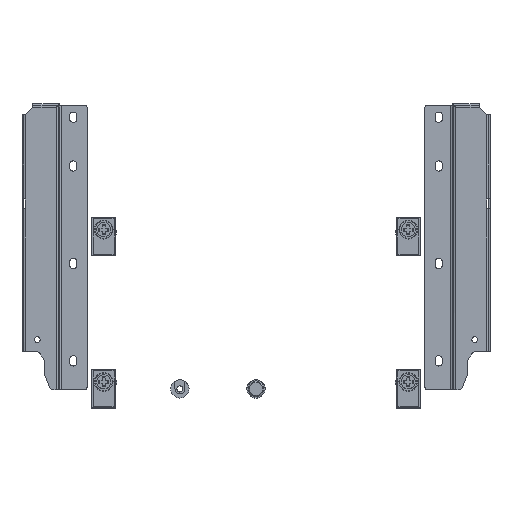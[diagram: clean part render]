
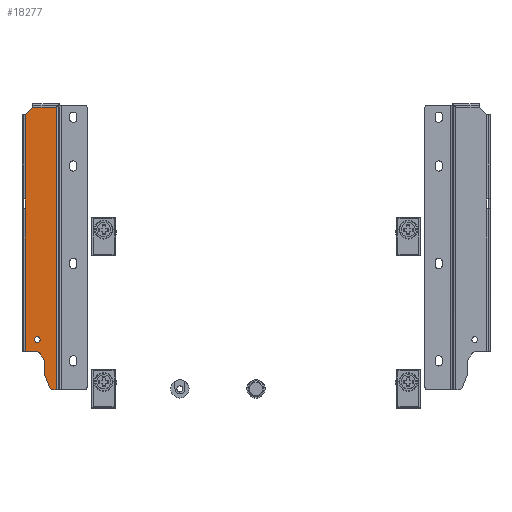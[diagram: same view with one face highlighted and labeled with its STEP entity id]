
A CAD part, top view. The second image highlights one B-rep face of the part: STEP entity #18277.
In plain terms, the highlighted planar face has unit normal (0, 0, 1) as drawn and (0, 1, 0) by its records, which use the part's own axes.
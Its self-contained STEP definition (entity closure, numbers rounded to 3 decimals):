
#11 = ORIENTED_EDGE ( 'NONE', *, *, #377, .F. ) ;
#38 = CARTESIAN_POINT ( 'NONE',  ( 1., 19., 0. ) ) ;
#102 = DIRECTION ( 'NONE',  ( 0., 0., 1. ) ) ;
#377 = EDGE_CURVE ( 'NONE', #13517, #10356, #13928, .T. ) ;
#942 = AXIS2_PLACEMENT_3D ( 'NONE', #19982, #1595, #8002 ) ;
#1510 = CARTESIAN_POINT ( 'NONE',  ( 13.7, 19., 34.9 ) ) ;
#1530 = VERTEX_POINT ( 'NONE', #11367 ) ;
#1595 = DIRECTION ( 'NONE',  ( 0., 1., 0. ) ) ;
#1844 = LINE ( 'NONE', #18889, #18257 ) ;
#1923 = CARTESIAN_POINT ( 'NONE',  ( 11.813, 19., 23.635 ) ) ;
#2021 = ORIENTED_EDGE ( 'NONE', *, *, #20802, .F. ) ;
#2041 = ORIENTED_EDGE ( 'NONE', *, *, #18205, .T. ) ;
#2085 = DIRECTION ( 'NONE',  ( 0., 0., 1. ) ) ;
#2233 = VERTEX_POINT ( 'NONE', #14433 ) ;
#2329 = DIRECTION ( 'NONE',  ( 0., 1., 0. ) ) ;
#2433 = CARTESIAN_POINT ( 'NONE',  ( 5., 19., 0. ) ) ;
#2738 = DIRECTION ( 'NONE',  ( 0., 0., 1. ) ) ;
#2836 = CARTESIAN_POINT ( 'NONE',  ( 14.328, 19., 22. ) ) ;
#2858 = CARTESIAN_POINT ( 'NONE',  ( 8.8, 19., 19. ) ) ;
#3042 = CARTESIAN_POINT ( 'NONE',  ( 0., 19., 187. ) ) ;
#3264 = DIRECTION ( 'NONE',  ( 0., 1., 0. ) ) ;
#3267 = VECTOR ( 'NONE', #15112, 1000. ) ;
#3284 = VECTOR ( 'NONE', #2085, 1000. ) ;
#3337 = VECTOR ( 'NONE', #8276, 1000. ) ;
#3346 = VECTOR ( 'NONE', #5807, 1000. ) ;
#3488 = EDGE_CURVE ( 'NONE', #5441, #14336, #13317, .T. ) ;
#3519 = EDGE_CURVE ( 'NONE', #20053, #9158, #5229, .T. ) ;
#3773 = LINE ( 'NONE', #8936, #10231 ) ;
#3824 = EDGE_CURVE ( 'NONE', #19810, #14336, #8317, .T. ) ;
#3882 = VERTEX_POINT ( 'NONE', #20000 ) ;
#4195 = ORIENTED_EDGE ( 'NONE', *, *, #15289, .T. ) ;
#4219 = CARTESIAN_POINT ( 'NONE',  ( 2.931, 19., 3. ) ) ;
#4409 = ORIENTED_EDGE ( 'NONE', *, *, #20929, .F. ) ;
#4506 = AXIS2_PLACEMENT_3D ( 'NONE', #3042, #4727, #11364 ) ;
#4592 = DIRECTION ( 'NONE',  ( -1., 0., 0. ) ) ;
#4727 = DIRECTION ( 'NONE',  ( 0., 1., 0. ) ) ;
#4968 = DIRECTION ( 'NONE',  ( 0., 0., 1. ) ) ;
#5155 = CIRCLE ( 'NONE', #15559, 1.9 ) ;
#5190 = DIRECTION ( 'NONE',  ( 0., 0., 1. ) ) ;
#5229 = LINE ( 'NONE', #17360, #18693 ) ;
#5398 = EDGE_CURVE ( 'NONE', #1530, #5657, #21311, .T. ) ;
#5404 = ORIENTED_EDGE ( 'NONE', *, *, #19356, .F. ) ;
#5441 = VERTEX_POINT ( 'NONE', #20283 ) ;
#5593 = ORIENTED_EDGE ( 'NONE', *, *, #3824, .T. ) ;
#5608 = ORIENTED_EDGE ( 'NONE', *, *, #15984, .F. ) ;
#5657 = VERTEX_POINT ( 'NONE', #5703 ) ;
#5703 = CARTESIAN_POINT ( 'NONE',  ( 1., 19., 185.7 ) ) ;
#5807 = DIRECTION ( 'NONE',  ( 0.355, 0., 0.935 ) ) ;
#5966 = EDGE_CURVE ( 'NONE', #10975, #2233, #10480, .T. ) ;
#6227 = CARTESIAN_POINT ( 'NONE',  ( 11.8, 19., 18.111 ) ) ;
#6364 = DIRECTION ( 'NONE',  ( 0., 1., 0. ) ) ;
#6806 = CARTESIAN_POINT ( 'NONE',  ( 14.328, 19., 25. ) ) ;
#6947 = LINE ( 'NONE', #2433, #3346 ) ;
#7045 = DIRECTION ( 'NONE',  ( 1., 0., 0. ) ) ;
#7357 = ORIENTED_EDGE ( 'NONE', *, *, #3488, .F. ) ;
#7938 = LINE ( 'NONE', #2858, #18865 ) ;
#8002 = DIRECTION ( 'NONE',  ( 0., 0., 1. ) ) ;
#8276 = DIRECTION ( 'NONE',  ( 1., 0., 0. ) ) ;
#8317 = CIRCLE ( 'NONE', #16923, 3. ) ;
#8767 = VECTOR ( 'NONE', #2738, 1000. ) ;
#8787 = ORIENTED_EDGE ( 'NONE', *, *, #19382, .T. ) ;
#8868 = CIRCLE ( 'NONE', #18884, 3. ) ;
#8936 = CARTESIAN_POINT ( 'NONE',  ( 12.7, 19., 25. ) ) ;
#9158 = VERTEX_POINT ( 'NONE', #12462 ) ;
#9633 = AXIS2_PLACEMENT_3D ( 'NONE', #13503, #3264, #5190 ) ;
#10231 = VECTOR ( 'NONE', #7045, 1000. ) ;
#10271 = EDGE_CURVE ( 'NONE', #10301, #11045, #1844, .T. ) ;
#10301 = VERTEX_POINT ( 'NONE', #20554 ) ;
#10356 = VERTEX_POINT ( 'NONE', #1510 ) ;
#10480 = LINE ( 'NONE', #17337, #3337 ) ;
#10579 = CARTESIAN_POINT ( 'NONE',  ( 21.7, 19., 180.7 ) ) ;
#10855 = CARTESIAN_POINT ( 'NONE',  ( 13.7, 19., 33. ) ) ;
#10975 = VERTEX_POINT ( 'NONE', #38 ) ;
#11045 = VERTEX_POINT ( 'NONE', #14614 ) ;
#11364 = DIRECTION ( 'NONE',  ( 0., 0., 1. ) ) ;
#11367 = CARTESIAN_POINT ( 'NONE',  ( 16.7, 19., 185.7 ) ) ;
#11379 = DIRECTION ( 'NONE',  ( 0., 0., 1. ) ) ;
#11731 = AXIS2_PLACEMENT_3D ( 'NONE', #4219, #6364, #13200 ) ;
#11957 = CARTESIAN_POINT ( 'NONE',  ( 5.735, 19., 1.934 ) ) ;
#11985 = ORIENTED_EDGE ( 'NONE', *, *, #3519, .T. ) ;
#12143 = EDGE_LOOP ( 'NONE', ( #5608, #11 ) ) ;
#12183 = CARTESIAN_POINT ( 'NONE',  ( 16.7, 19., 185.7 ) ) ;
#12462 = CARTESIAN_POINT ( 'NONE',  ( 21.7, 19., 125.3 ) ) ;
#13200 = DIRECTION ( 'NONE',  ( 0., 0., 1. ) ) ;
#13267 = FACE_OUTER_BOUND ( 'NONE', #14591, .T. ) ;
#13317 = LINE ( 'NONE', #20131, #3267 ) ;
#13503 = CARTESIAN_POINT ( 'NONE',  ( 13.7, 19., 33. ) ) ;
#13517 = VERTEX_POINT ( 'NONE', #13769 ) ;
#13769 = CARTESIAN_POINT ( 'NONE',  ( 13.7, 19., 31.1 ) ) ;
#13928 = CIRCLE ( 'NONE', #9633, 1.9 ) ;
#13979 = LINE ( 'NONE', #17468, #3284 ) ;
#14281 = ORIENTED_EDGE ( 'NONE', *, *, #10271, .T. ) ;
#14336 = VERTEX_POINT ( 'NONE', #18861 ) ;
#14357 = VERTEX_POINT ( 'NONE', #1923 ) ;
#14419 = LINE ( 'NONE', #14754, #8767 ) ;
#14433 = CARTESIAN_POINT ( 'NONE',  ( 2.931, 19., 0. ) ) ;
#14591 = EDGE_LOOP ( 'NONE', ( #2021, #11985, #4409, #14281, #17635, #17663, #5404, #5593, #7357, #2041, #16577, #8787, #17134, #4195, #20211 ) ) ;
#14614 = CARTESIAN_POINT ( 'NONE',  ( 21.7, 19., 25. ) ) ;
#14754 = CARTESIAN_POINT ( 'NONE',  ( 1., 19., 187. ) ) ;
#14848 = FACE_BOUND ( 'NONE', #12143, .T. ) ;
#15112 = DIRECTION ( 'NONE',  ( 0., 0., 1. ) ) ;
#15289 = EDGE_CURVE ( 'NONE', #10975, #5657, #14419, .T. ) ;
#15559 = AXIS2_PLACEMENT_3D ( 'NONE', #10855, #2329, #102 ) ;
#15682 = DIRECTION ( 'NONE',  ( 0., 0., -1. ) ) ;
#15984 = EDGE_CURVE ( 'NONE', #10356, #13517, #5155, .T. ) ;
#15986 = EDGE_CURVE ( 'NONE', #19444, #3882, #6947, .T. ) ;
#16339 = DIRECTION ( 'NONE',  ( 0., -1., 0. ) ) ;
#16411 = CIRCLE ( 'NONE', #11731, 3. ) ;
#16577 = ORIENTED_EDGE ( 'NONE', *, *, #15986, .F. ) ;
#16923 = AXIS2_PLACEMENT_3D ( 'NONE', #6227, #18441, #4968 ) ;
#17134 = ORIENTED_EDGE ( 'NONE', *, *, #5966, .F. ) ;
#17282 = VECTOR ( 'NONE', #21623, 1000. ) ;
#17337 = CARTESIAN_POINT ( 'NONE',  ( 0., 19., 0. ) ) ;
#17360 = CARTESIAN_POINT ( 'NONE',  ( 21.7, 19., 187. ) ) ;
#17425 = CIRCLE ( 'NONE', #942, 3. ) ;
#17468 = CARTESIAN_POINT ( 'NONE',  ( 21.7, 19., 125.8 ) ) ;
#17581 = EDGE_CURVE ( 'NONE', #19537, #11045, #3773, .T. ) ;
#17635 = ORIENTED_EDGE ( 'NONE', *, *, #17581, .F. ) ;
#17663 = ORIENTED_EDGE ( 'NONE', *, *, #19695, .T. ) ;
#18205 = EDGE_CURVE ( 'NONE', #5441, #3882, #17425, .T. ) ;
#18257 = VECTOR ( 'NONE', #21899, 1000. ) ;
#18277 = ADVANCED_FACE ( 'NONE', ( #13267, #14848 ), #22091, .T. ) ;
#18441 = DIRECTION ( 'NONE',  ( 0., -1., 0. ) ) ;
#18693 = VECTOR ( 'NONE', #15682, 1000. ) ;
#18861 = CARTESIAN_POINT ( 'NONE',  ( 8.8, 19., 18.111 ) ) ;
#18865 = VECTOR ( 'NONE', #19812, 1000. ) ;
#18884 = AXIS2_PLACEMENT_3D ( 'NONE', #2836, #16339, #11379 ) ;
#18889 = CARTESIAN_POINT ( 'NONE',  ( 21.7, 19., 187. ) ) ;
#19004 = VECTOR ( 'NONE', #4592, 1000. ) ;
#19356 = EDGE_CURVE ( 'NONE', #19810, #14357, #7938, .T. ) ;
#19382 = EDGE_CURVE ( 'NONE', #19444, #2233, #16411, .T. ) ;
#19444 = VERTEX_POINT ( 'NONE', #11957 ) ;
#19537 = VERTEX_POINT ( 'NONE', #6806 ) ;
#19566 = CARTESIAN_POINT ( 'NONE',  ( 9.285, 19., 19.746 ) ) ;
#19695 = EDGE_CURVE ( 'NONE', #19537, #14357, #8868, .T. ) ;
#19810 = VERTEX_POINT ( 'NONE', #19566 ) ;
#19812 = DIRECTION ( 'NONE',  ( 0.545, 0., 0.838 ) ) ;
#19958 = CARTESIAN_POINT ( 'NONE',  ( 23.7, 19., 185.7 ) ) ;
#19982 = CARTESIAN_POINT ( 'NONE',  ( 5.8, 19., 10.551 ) ) ;
#20000 = CARTESIAN_POINT ( 'NONE',  ( 8.604, 19., 9.485 ) ) ;
#20053 = VERTEX_POINT ( 'NONE', #10579 ) ;
#20055 = LINE ( 'NONE', #12183, #17282 ) ;
#20131 = CARTESIAN_POINT ( 'NONE',  ( 8.8, 19., 10. ) ) ;
#20211 = ORIENTED_EDGE ( 'NONE', *, *, #5398, .F. ) ;
#20283 = CARTESIAN_POINT ( 'NONE',  ( 8.8, 19., 10.551 ) ) ;
#20554 = CARTESIAN_POINT ( 'NONE',  ( 21.7, 19., 119.5 ) ) ;
#20802 = EDGE_CURVE ( 'NONE', #20053, #1530, #20055, .T. ) ;
#20929 = EDGE_CURVE ( 'NONE', #10301, #9158, #13979, .T. ) ;
#21311 = LINE ( 'NONE', #19958, #19004 ) ;
#21623 = DIRECTION ( 'NONE',  ( -0.707, 0., 0.707 ) ) ;
#21899 = DIRECTION ( 'NONE',  ( 0., 0., -1. ) ) ;
#22091 = PLANE ( 'NONE',  #4506 ) ;
